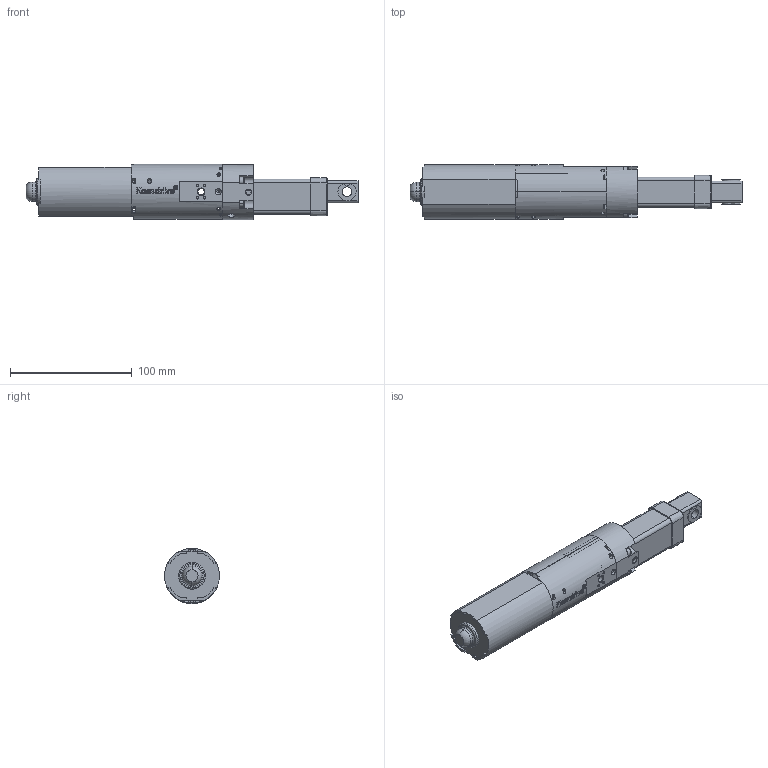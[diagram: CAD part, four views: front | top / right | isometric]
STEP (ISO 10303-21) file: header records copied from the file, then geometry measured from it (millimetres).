
FILE_DESCRIPTION (( 'STEP AP214' ), '1' );
FILE_NAME ('KoaxE.STEP', '2023-05-02T09:18:01', ( '' ), ( '' ), 'SwSTEP 2.0', 'SolidWorks 2021', '' );
FILE_SCHEMA (( 'AUTOMOTIVE_DESIGN' ));
Length unit declared in the file: millimetre
Products named in the file (15): DIN 915 - M6 x 8-N - A2_DIN 915 - M6 x 8-N - A2; 30.4.016_Zeichnungsdarstellung; KoaxE; 30.4.011_EB120 Hub 38; 30.4.005_EB120 Hub 38; 26.3.009; DIN 912 M4 x 25 --- 25N - 8.8 verz._DIN 912 M4 x 25 --- 25N - 8.8 verz.; Rillenkugellager-6002 2RS_6002; 30.4.006_EB120 Hub 38; DU-Buchse-BB0810 DU; 14.5.019; 30.4.007_EB120 Hub 38; 30.0.004; Motor 24V-Koax-230000063; 30.4.004_EB120 Hub 38
Assembly tree (19 placements, depth 4):
  KoaxE
    30.4.016_Zeichnungsdarstellung
      Motor 24V-Koax-230000063
      30.0.004
      Rillenkugellager-6002 2RS_6002
    30.4.011_EB120 Hub 38
      30.4.006_EB120 Hub 38
        30.4.005_EB120 Hub 38
      26.3.009
      30.4.007_EB120 Hub 38
        30.4.004_EB120 Hub 38
      14.5.019
      DU-Buchse-BB0810 DU  x2
      DIN 915 - M6 x 8-N - A2_DIN 915 - M6 x 8-N - A2  x2
    DIN 912 M4 x 25 --- 25N - 8.8 verz._DIN 912 M4 x 25 --- 25N - 8.8 verz.  x4
Bounding box: 273 x 45 x 45.41 mm (x, y, z)
Volume: 200055.9 mm3; surface area: 91818.6 mm2
Topology: 16 solids, 16 shells, 1210 faces, 3096 edges, 1963 vertices
Faces by surface type: plane 490, cylinder 336, cone 166, bspline 148, torus 66, sphere 4
Entity records: 43186 total; most frequent: CARTESIAN_POINT 16288, ORIENTED_EDGE 5674, DIRECTION 5036, EDGE_CURVE 2837, VERTEX_POINT 1824, AXIS2_PLACEMENT_3D 1820, VECTOR 1396, LINE 1396
